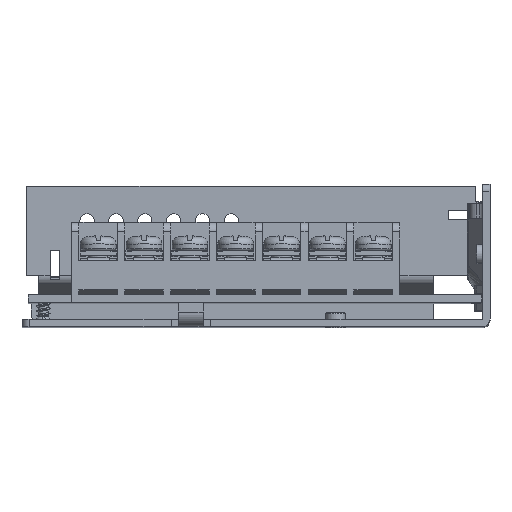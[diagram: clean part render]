
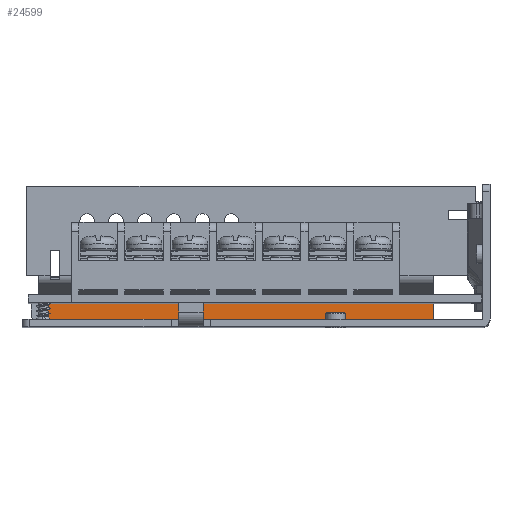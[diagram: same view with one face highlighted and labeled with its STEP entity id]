
A CAD part, top view. The second image highlights one B-rep face of the part: STEP entity #24599.
In plain terms, the highlighted planar face has unit normal (0, 0, 1).
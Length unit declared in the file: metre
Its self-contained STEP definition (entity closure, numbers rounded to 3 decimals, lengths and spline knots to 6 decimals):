
#2683=LINE('',#49161,#4999);
#2717=LINE('',#49258,#5033);
#2718=LINE('',#49261,#5034);
#2719=LINE('',#49262,#5035);
#4999=VECTOR('',#38596,1.);
#5033=VECTOR('',#38686,1.);
#5034=VECTOR('',#38687,1.);
#5035=VECTOR('',#38688,1.);
#5946=PLANE('',#32812);
#11970=ORIENTED_EDGE('',*,*,#15862,.T.);
#11971=ORIENTED_EDGE('',*,*,#15863,.T.);
#11972=ORIENTED_EDGE('',*,*,#15813,.T.);
#11973=ORIENTED_EDGE('',*,*,#15864,.F.);
#15813=EDGE_CURVE('',#18073,#18074,#2683,.T.);
#15862=EDGE_CURVE('',#18108,#18109,#2717,.T.);
#15863=EDGE_CURVE('',#18109,#18073,#2718,.T.);
#15864=EDGE_CURVE('',#18108,#18074,#2719,.T.);
#18073=VERTEX_POINT('',#49162);
#18074=VERTEX_POINT('',#49163);
#18108=VERTEX_POINT('',#49259);
#18109=VERTEX_POINT('',#49260);
#20308=EDGE_LOOP('',(#11970,#11971,#11972,#11973));
#21798=FACE_BOUND('',#20308,.T.);
#24599=ADVANCED_FACE('',(#21798),#5946,.T.);
#32812=AXIS2_PLACEMENT_3D('',#49257,#38684,#38685);
#38596=DIRECTION('',(1.,0.,0.));
#38684=DIRECTION('',(0.,0.,1.));
#38685=DIRECTION('',(0.,-1.,0.));
#38686=DIRECTION('',(-1.,0.,0.));
#38687=DIRECTION('',(0.,-1.,0.));
#38688=DIRECTION('',(0.,-1.,0.));
#49161=CARTESIAN_POINT('',(0.230634,-0.087612,-0.234166));
#49162=CARTESIAN_POINT('',(0.189784,-0.087612,-0.234166));
#49163=CARTESIAN_POINT('',(0.271484,-0.087612,-0.234166));
#49257=CARTESIAN_POINT('',(0.230634,-0.085509,-0.234166));
#49258=CARTESIAN_POINT('',(0.251059,-0.083254,-0.234166));
#49259=CARTESIAN_POINT('',(0.271484,-0.083254,-0.234166));
#49260=CARTESIAN_POINT('',(0.189784,-0.083254,-0.234166));
#49261=CARTESIAN_POINT('',(0.189784,-0.09,-0.234166));
#49262=CARTESIAN_POINT('',(0.271484,-0.09,-0.234166));
